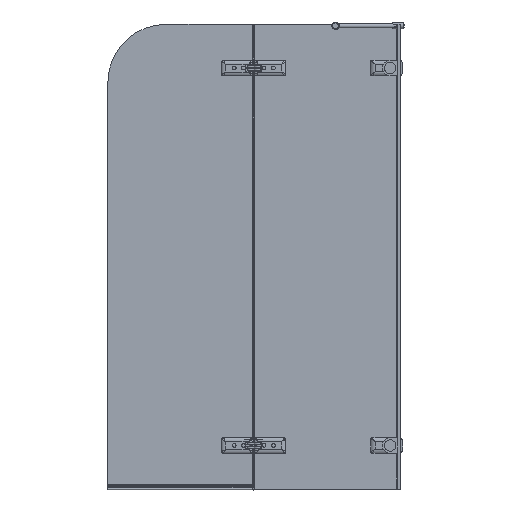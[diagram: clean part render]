
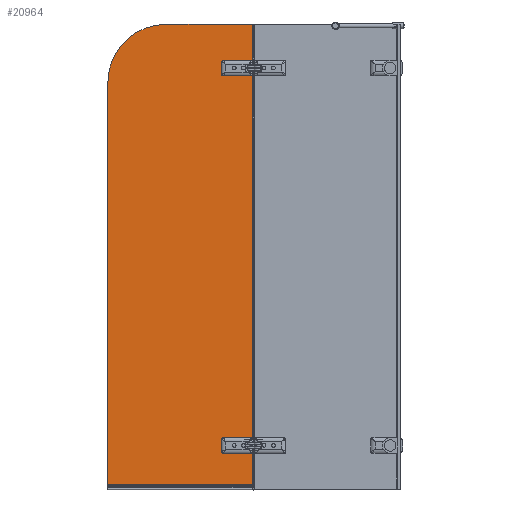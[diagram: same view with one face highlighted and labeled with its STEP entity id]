
A CAD part, left-side view. The second image highlights one B-rep face of the part: STEP entity #20964.
In plain terms, the highlighted planar face has unit normal (-1, 0, 0).
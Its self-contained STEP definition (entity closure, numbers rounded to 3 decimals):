
#764=PLANE($,#22784);
#1012=FACE_BOUND($,#7043,.T.);
#1013=FACE_BOUND($,#7044,.T.);
#1014=FACE_BOUND($,#7045,.T.);
#1915=LINE($,#46308,#3606);
#1926=LINE($,#46414,#3617);
#2362=LINE($,#48488,#4053);
#2643=LINE($,#51932,#4334);
#2670=LINE($,#52067,#4361);
#2671=LINE($,#52071,#4362);
#2672=LINE($,#52074,#4363);
#2673=LINE($,#52078,#4364);
#2674=LINE($,#52079,#4365);
#2675=LINE($,#52081,#4366);
#2676=LINE($,#52085,#4367);
#2677=LINE($,#52088,#4368);
#3606=VECTOR($,#25508,116.4);
#3617=VECTOR($,#25537,1262.);
#4053=VECTOR($,#26815,131.);
#4334=VECTOR($,#27766,297.226);
#4361=VECTOR($,#27869,29.226);
#4362=VECTOR($,#27872,18.);
#4363=VECTOR($,#27875,29.226);
#4364=VECTOR($,#27878,1385.4);
#4365=VECTOR($,#27879,497.226);
#4366=VECTOR($,#27880,29.226);
#4367=VECTOR($,#27883,18.);
#4368=VECTOR($,#27886,29.226);
#7043=EDGE_LOOP($,(#18221));
#7044=EDGE_LOOP($,(#18222));
#7045=EDGE_LOOP($,(#18223,#18224,#18225,#18226,#18227,#18228,#18229,#18230,
#18231,#18232,#18233,#18234,#18235,#18236,#18237,#18238,#18239));
#7855=CIRCLE($,#21802,6.5);
#8028=CIRCLE($,#22234,6.5);
#8213=CIRCLE($,#22785,10.);
#8214=CIRCLE($,#22786,10.);
#8215=CIRCLE($,#22787,200.);
#8216=CIRCLE($,#22788,10.);
#8217=CIRCLE($,#22789,10.);
#9077=VERTEX_POINT($,#45499);
#9241=VERTEX_POINT($,#46305);
#9242=VERTEX_POINT($,#46307);
#9265=VERTEX_POINT($,#46411);
#9266=VERTEX_POINT($,#46413);
#9530=VERTEX_POINT($,#47689);
#9690=VERTEX_POINT($,#48485);
#9691=VERTEX_POINT($,#48487);
#10015=VERTEX_POINT($,#51930);
#10037=VERTEX_POINT($,#52066);
#10038=VERTEX_POINT($,#52068);
#10039=VERTEX_POINT($,#52070);
#10040=VERTEX_POINT($,#52072);
#10041=VERTEX_POINT($,#52075);
#10042=VERTEX_POINT($,#52077);
#10043=VERTEX_POINT($,#52080);
#10044=VERTEX_POINT($,#52082);
#10045=VERTEX_POINT($,#52084);
#10046=VERTEX_POINT($,#52086);
#11324=EDGE_CURVE($,#9077,#9077,#7855,.T.);
#11590=EDGE_CURVE($,#9242,#9241,#1915,.T.);
#11616=EDGE_CURVE($,#9266,#9265,#1926,.T.);
#12028=EDGE_CURVE($,#9530,#9530,#8028,.T.);
#12288=EDGE_CURVE($,#9691,#9690,#2362,.T.);
#12793=EDGE_CURVE($,#10015,#9690,#2643,.T.);
#12837=EDGE_CURVE($,#9265,#10037,#2670,.T.);
#12838=EDGE_CURVE($,#10038,#10037,#8213,.T.);
#12839=EDGE_CURVE($,#10038,#10039,#2671,.T.);
#12840=EDGE_CURVE($,#10040,#10039,#8214,.T.);
#12841=EDGE_CURVE($,#10040,#9691,#2672,.T.);
#12842=EDGE_CURVE($,#10041,#10015,#8215,.T.);
#12843=EDGE_CURVE($,#10042,#10041,#2673,.T.);
#12844=EDGE_CURVE($,#9242,#10042,#2674,.T.);
#12845=EDGE_CURVE($,#9241,#10043,#2675,.T.);
#12846=EDGE_CURVE($,#10044,#10043,#8216,.T.);
#12847=EDGE_CURVE($,#10044,#10045,#2676,.T.);
#12848=EDGE_CURVE($,#10046,#10045,#8217,.T.);
#12849=EDGE_CURVE($,#10046,#9266,#2677,.T.);
#18221=ORIENTED_EDGE($,*,*,#11324,.T.);
#18222=ORIENTED_EDGE($,*,*,#12028,.T.);
#18223=ORIENTED_EDGE($,*,*,#11616,.T.);
#18224=ORIENTED_EDGE($,*,*,#12837,.T.);
#18225=ORIENTED_EDGE($,*,*,#12838,.F.);
#18226=ORIENTED_EDGE($,*,*,#12839,.T.);
#18227=ORIENTED_EDGE($,*,*,#12840,.F.);
#18228=ORIENTED_EDGE($,*,*,#12841,.T.);
#18229=ORIENTED_EDGE($,*,*,#12288,.T.);
#18230=ORIENTED_EDGE($,*,*,#12793,.F.);
#18231=ORIENTED_EDGE($,*,*,#12842,.F.);
#18232=ORIENTED_EDGE($,*,*,#12843,.F.);
#18233=ORIENTED_EDGE($,*,*,#12844,.F.);
#18234=ORIENTED_EDGE($,*,*,#11590,.T.);
#18235=ORIENTED_EDGE($,*,*,#12845,.T.);
#18236=ORIENTED_EDGE($,*,*,#12846,.F.);
#18237=ORIENTED_EDGE($,*,*,#12847,.T.);
#18238=ORIENTED_EDGE($,*,*,#12848,.F.);
#18239=ORIENTED_EDGE($,*,*,#12849,.T.);
#20964=ADVANCED_FACE($,(#1012,#1013,#1014),#764,.T.);
#21802=AXIS2_PLACEMENT_3D($,#45500,#24979,#24980);
#22234=AXIS2_PLACEMENT_3D($,#47690,#26294,#26295);
#22784=AXIS2_PLACEMENT_3D($,#52065,#27867,#27868);
#22785=AXIS2_PLACEMENT_3D($,#52069,#27870,#27871);
#22786=AXIS2_PLACEMENT_3D($,#52073,#27873,#27874);
#22787=AXIS2_PLACEMENT_3D($,#52076,#27876,#27877);
#22788=AXIS2_PLACEMENT_3D($,#52083,#27881,#27882);
#22789=AXIS2_PLACEMENT_3D($,#52087,#27884,#27885);
#24979=DIRECTION('center_axis',(1.,0.,0.));
#24980=DIRECTION('ref_axis',(0.,-1.,0.));
#25508=DIRECTION($,(0.,0.,1.));
#25537=DIRECTION($,(0.,0.,1.));
#26294=DIRECTION('center_axis',(1.,0.,0.));
#26295=DIRECTION('ref_axis',(0.,-1.,0.));
#26815=DIRECTION($,(0.,0.,1.));
#27766=DIRECTION($,(0.,-1.,0.));
#27867=DIRECTION('center_axis',(-1.,0.,0.));
#27868=DIRECTION('ref_axis',(0.,-1.,0.));
#27869=DIRECTION($,(0.,1.,0.));
#27870=DIRECTION('center_axis',(-1.,0.,0.));
#27871=DIRECTION('ref_axis',(0.,0.707,-0.707));
#27872=DIRECTION($,(0.,0.,1.));
#27873=DIRECTION('center_axis',(-1.,0.,0.));
#27874=DIRECTION('ref_axis',(0.,0.707,0.707));
#27875=DIRECTION($,(0.,-1.,0.));
#27876=DIRECTION('center_axis',(1.,0.,0.));
#27877=DIRECTION('ref_axis',(0.,0.707,0.707));
#27878=DIRECTION($,(0.,0.,1.));
#27879=DIRECTION($,(0.,1.,0.));
#27880=DIRECTION($,(0.,1.,0.));
#27881=DIRECTION('center_axis',(-1.,0.,0.));
#27882=DIRECTION('ref_axis',(0.,0.707,-0.707));
#27883=DIRECTION($,(0.,0.,1.));
#27884=DIRECTION('center_axis',(-1.,0.,0.));
#27885=DIRECTION('ref_axis',(0.,0.707,0.707));
#27886=DIRECTION($,(0.,-1.,0.));
#45499=CARTESIAN_POINT('',(1225.733,244.456,175.944));
#45500=CARTESIAN_POINT('Origin',(1225.733,237.956,175.944));
#46305=CARTESIAN_POINT('',(1225.733,175.73,156.944));
#46307=CARTESIAN_POINT('',(1225.733,175.73,40.544));
#46308=CARTESIAN_POINT($,(1225.733,175.73,165.944));
#46411=CARTESIAN_POINT('',(1225.733,175.73,1456.944));
#46413=CARTESIAN_POINT('',(1225.733,175.73,194.944));
#46414=CARTESIAN_POINT($,(1225.733,175.73,185.944));
#47689=CARTESIAN_POINT('',(1225.733,244.456,1475.944));
#47690=CARTESIAN_POINT('Origin',(1225.733,237.956,1475.944));
#48485=CARTESIAN_POINT('',(1225.733,175.73,1625.944));
#48487=CARTESIAN_POINT('',(1225.733,175.73,1494.944));
#48488=CARTESIAN_POINT($,(1225.733,175.73,1485.944));
#51930=CARTESIAN_POINT('',(1225.733,472.956,1625.944));
#51932=CARTESIAN_POINT($,(1225.733,672.956,1625.944));
#52065=CARTESIAN_POINT('Origin',(1225.733,672.956,35.944));
#52066=CARTESIAN_POINT('',(1225.733,204.956,1456.944));
#52067=CARTESIAN_POINT($,(1225.733,443.956,1456.944));
#52068=CARTESIAN_POINT('',(1225.733,214.956,1466.944));
#52069=CARTESIAN_POINT('Origin',(1225.733,204.956,1466.944));
#52070=CARTESIAN_POINT('',(1225.733,214.956,1484.944));
#52071=CARTESIAN_POINT($,(1225.733,214.956,765.444));
#52072=CARTESIAN_POINT('',(1225.733,204.956,1494.944));
#52073=CARTESIAN_POINT('Origin',(1225.733,204.956,1484.944));
#52074=CARTESIAN_POINT($,(1225.733,422.956,1494.944));
#52075=CARTESIAN_POINT('',(1225.733,672.956,1425.944));
#52076=CARTESIAN_POINT('Origin',(1225.733,472.956,1425.944));
#52077=CARTESIAN_POINT('',(1225.733,672.956,40.544));
#52078=CARTESIAN_POINT($,(1225.733,672.956,35.944));
#52079=CARTESIAN_POINT($,(1225.733,172.956,40.544));
#52080=CARTESIAN_POINT('',(1225.733,204.956,156.944));
#52081=CARTESIAN_POINT($,(1225.733,443.956,156.944));
#52082=CARTESIAN_POINT('',(1225.733,214.956,166.944));
#52083=CARTESIAN_POINT('Origin',(1225.733,204.956,166.944));
#52084=CARTESIAN_POINT('',(1225.733,214.956,184.944));
#52085=CARTESIAN_POINT($,(1225.733,214.956,115.444));
#52086=CARTESIAN_POINT('',(1225.733,204.956,194.944));
#52087=CARTESIAN_POINT('Origin',(1225.733,204.956,184.944));
#52088=CARTESIAN_POINT($,(1225.733,422.956,194.944));
